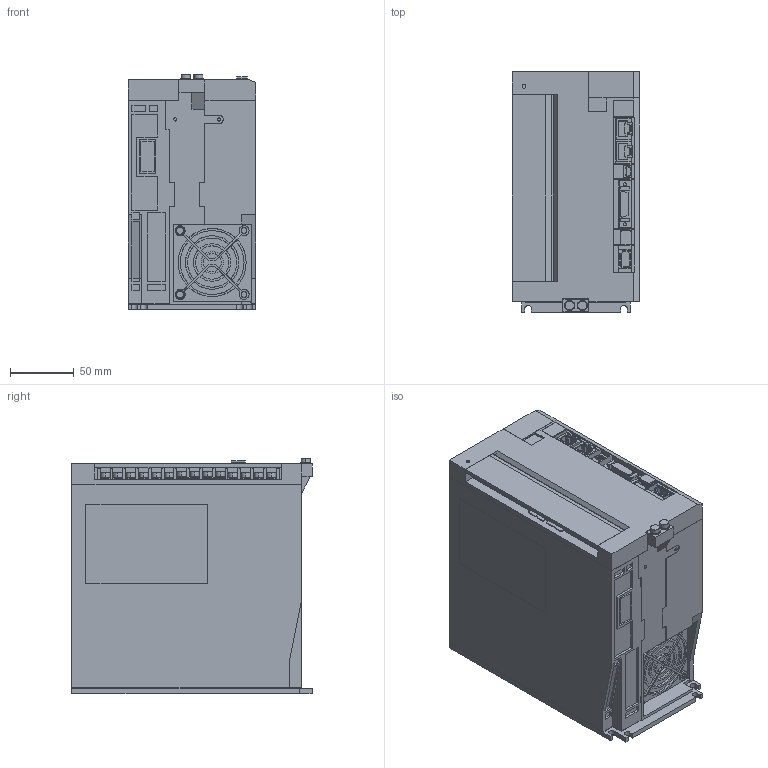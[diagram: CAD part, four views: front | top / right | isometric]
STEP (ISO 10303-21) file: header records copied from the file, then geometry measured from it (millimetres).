
FILE_DESCRIPTION((''),'2;1');
FILE_NAME('SGDXS-180A40A_ASM_ASM','2022-02-23T',('liubing_shen'),('Yaskawa Electric (Shenyang) Co.,Ltd'),'PRO/ENGINEER BY PARAMETRIC TECHNOLOGY CORPORATION, 2017170','PRO/ENGINEER BY PARAMETRIC TECHNOLOGY CORPORATION, 2017170','');
FILE_SCHEMA(('AUTOMOTIVE_DESIGN { 1 0 10303 214 1 1 1 1 }'));
Products named in the file (7): SGDXS-180A40A_BASE_1_1; SGDXS-180A40A_COVER1_1_1; SGDXS-180A40A_COVER2_2_1; SGDXS-180A40A_COVER3_1_1; SGDXS-180A40A_COVER_1_1; SGDXS-180A40A_CONNECTOR_1_1; SGDXS-180A40A_ASM_ASM
Assembly tree (6 placements, depth 2):
  SGDXS-180A40A_ASM_ASM
    SGDXS-180A40A_BASE_1_1
    SGDXS-180A40A_COVER1_1_1
    SGDXS-180A40A_COVER2_2_1
    SGDXS-180A40A_COVER3_1_1
    SGDXS-180A40A_COVER_1_1
    SGDXS-180A40A_CONNECTOR_1_1
Bounding box: 100 x 188 x 184.4 mm (x, y, z)
Volume: 3095771.8 mm3; surface area: 197806.7 mm2
Topology: 4 solids, 6 shells, 2057 faces, 5896 edges, 3925 vertices
Faces by surface type: plane 1779, cylinder 257, cone 12, torus 6, bspline 3
Entity records: 99876 total; most frequent: CARTESIAN_POINT 12324, ORIENTED_EDGE 11768, DIRECTION 10688, PRESENTATION_STYLE_ASSIGNMENT 7773, STYLED_ITEM 6013, CURVE_STYLE 5896, EDGE_CURVE 5896, VECTOR 5118
